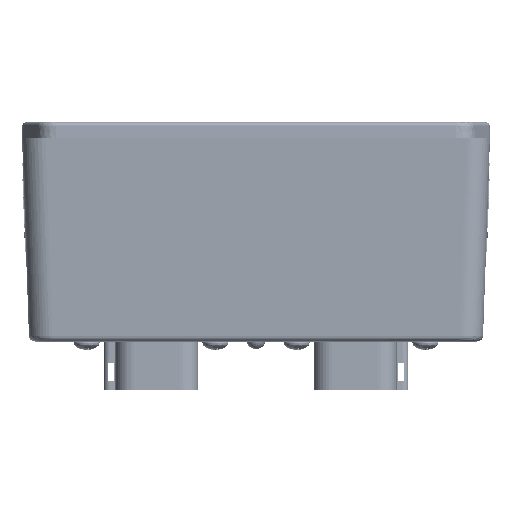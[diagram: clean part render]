
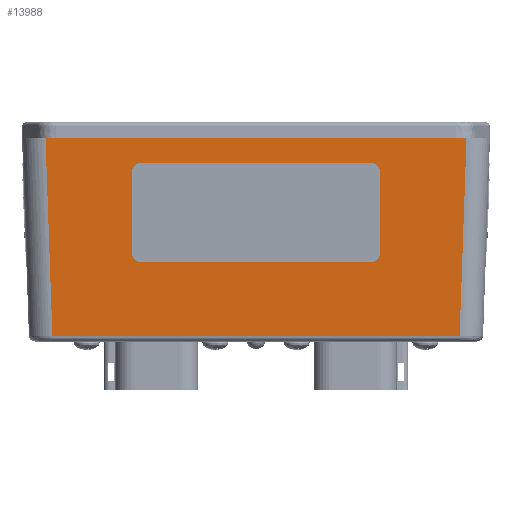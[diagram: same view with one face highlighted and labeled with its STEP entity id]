
A CAD part, left-side view. The second image highlights one B-rep face of the part: STEP entity #13988.
In plain terms, the highlighted planar face has unit normal (-0.999, 0, -0.035).
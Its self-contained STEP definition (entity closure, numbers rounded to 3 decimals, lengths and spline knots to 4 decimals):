
#13876 = VERTEX_POINT ( 'NONE', #152651 ) ;
#13879 = EDGE_CURVE ( 'NONE', #13881, #13876, #152649, .T. ) ;
#13881 = VERTEX_POINT ( 'NONE', #152741 ) ;
#13914 = VERTEX_POINT ( 'NONE', #152795 ) ;
#13985 = EDGE_CURVE ( 'NONE', #13876, #13914, #152942, .T. ) ;
#13988 = ADVANCED_FACE ( 'NONE', ( #152890 ), #152886, .T. ) ;
#13990 = EDGE_LOOP ( 'NONE', ( #13991, #13993, #13995, #14000 ) ) ;
#13991 = ORIENTED_EDGE ( 'NONE', *, *, #13879, .T. ) ;
#13993 = ORIENTED_EDGE ( 'NONE', *, *, #13985, .T. ) ;
#13995 = ORIENTED_EDGE ( 'NONE', *, *, #13998, .F. ) ;
#13998 = EDGE_CURVE ( 'NONE', #13999, #13914, #152874, .T. ) ;
#13999 = VERTEX_POINT ( 'NONE', #153025 ) ;
#14000 = ORIENTED_EDGE ( 'NONE', *, *, #14001, .F. ) ;
#14001 = EDGE_CURVE ( 'NONE', #13881, #13999, #153021, .T. ) ;
#152619 = DIRECTION ( 'NONE',  ( 0., 1., 0. ) ) ;
#152620 = VECTOR ( 'NONE', #152619, 39.3701 ) ;
#152622 = CARTESIAN_POINT ( 'NONE',  ( -3.6959, 0., 0. ) ) ;
#152649 = LINE ( 'NONE', #152622, #152620 ) ;
#152651 = CARTESIAN_POINT ( 'NONE',  ( -3.6959, 2.1163, 0. ) ) ;
#152741 = CARTESIAN_POINT ( 'NONE',  ( -3.6959, -2.1163, 0. ) ) ;
#152795 = CARTESIAN_POINT ( 'NONE',  ( -3.6264, 2.0468, -1.9902 ) ) ;
#152869 = DIRECTION ( 'NONE',  ( 0., 1., 0. ) ) ;
#152870 = VECTOR ( 'NONE', #152869, 39.3701 ) ;
#152873 = CARTESIAN_POINT ( 'NONE',  ( -3.6264, 0., -1.9902 ) ) ;
#152874 = LINE ( 'NONE', #152873, #152870 ) ;
#152879 = DIRECTION ( 'NONE',  ( -0.035, 0., 0.999 ) ) ;
#152881 = DIRECTION ( 'NONE',  ( -0.999, 0., -0.035 ) ) ;
#152883 = CARTESIAN_POINT ( 'NONE',  ( -3.6959, 0., 0. ) ) ;
#152884 = AXIS2_PLACEMENT_3D ( 'NONE', #152883, #152881, #152879 ) ;
#152886 = PLANE ( 'NONE',  #152884 ) ;
#152890 = FACE_OUTER_BOUND ( 'NONE', #13990, .T. ) ;
#152892 = DIRECTION ( 'NONE',  ( 0.035, -0.035, -0.999 ) ) ;
#152912 = VECTOR ( 'NONE', #152892, 39.3701 ) ;
#152915 = CARTESIAN_POINT ( 'NONE',  ( -3.6959, 2.1163, 0. ) ) ;
#152942 = LINE ( 'NONE', #152915, #152912 ) ;
#153016 = DIRECTION ( 'NONE',  ( 0.035, 0.035, -0.999 ) ) ;
#153018 = VECTOR ( 'NONE', #153016, 39.3701 ) ;
#153020 = CARTESIAN_POINT ( 'NONE',  ( -3.6925, -2.1129, -0.0971 ) ) ;
#153021 = LINE ( 'NONE', #153020, #153018 ) ;
#153025 = CARTESIAN_POINT ( 'NONE',  ( -3.6264, -2.0468, -1.9902 ) ) ;
